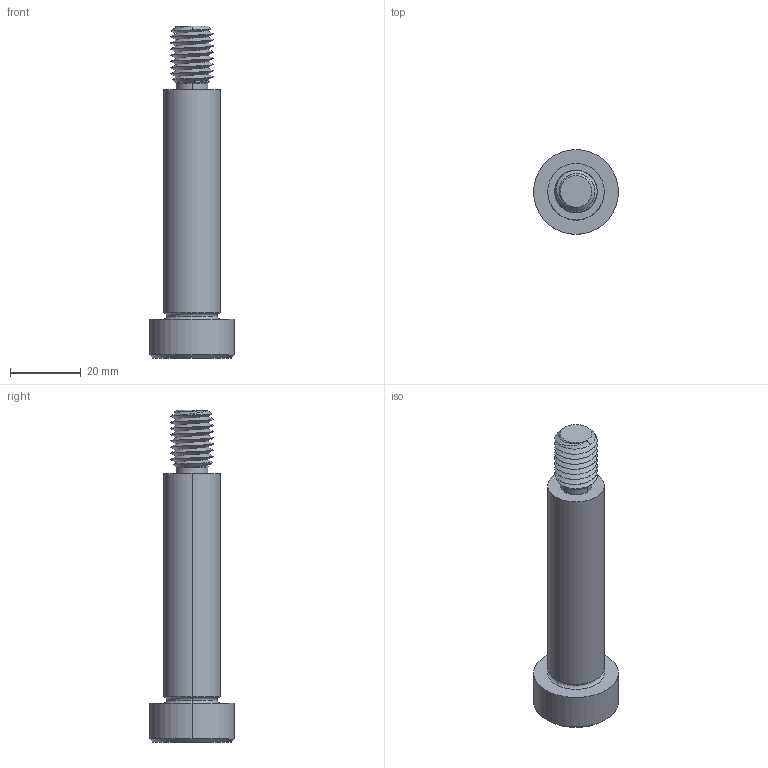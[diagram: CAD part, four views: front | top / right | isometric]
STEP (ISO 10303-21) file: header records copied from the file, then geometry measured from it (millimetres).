
FILE_DESCRIPTION (( 'STEP AP203' ), '1' );
FILE_NAME ('P0130.160-065-B2.step', '2021-11-09T22:17:21', ( '' ), ( '' ), 'SwSTEP 2.0', 'SolidWorks 2019', '' );
FILE_SCHEMA (( 'CONFIG_CONTROL_DESIGN' ));
Length unit declared in the file: millimetre
Products named in the file (1): P0130.160-065-B2
Bounding box: 24 x 24 x 94 mm (x, y, z)
Volume: 18974.1 mm3; surface area: 6310.4 mm2
Topology: 1 solids, 1 shells, 59 faces, 139 edges, 83 vertices
Faces by surface type: cylinder 22, plane 16, cone 15, torus 4, bspline 2
Entity records: 5164 total; most frequent: CARTESIAN_POINT 3839, ORIENTED_EDGE 274, DIRECTION 244, EDGE_CURVE 137, AXIS2_PLACEMENT_3D 98, VERTEX_POINT 83, EDGE_LOOP 62, ADVANCED_FACE 59
